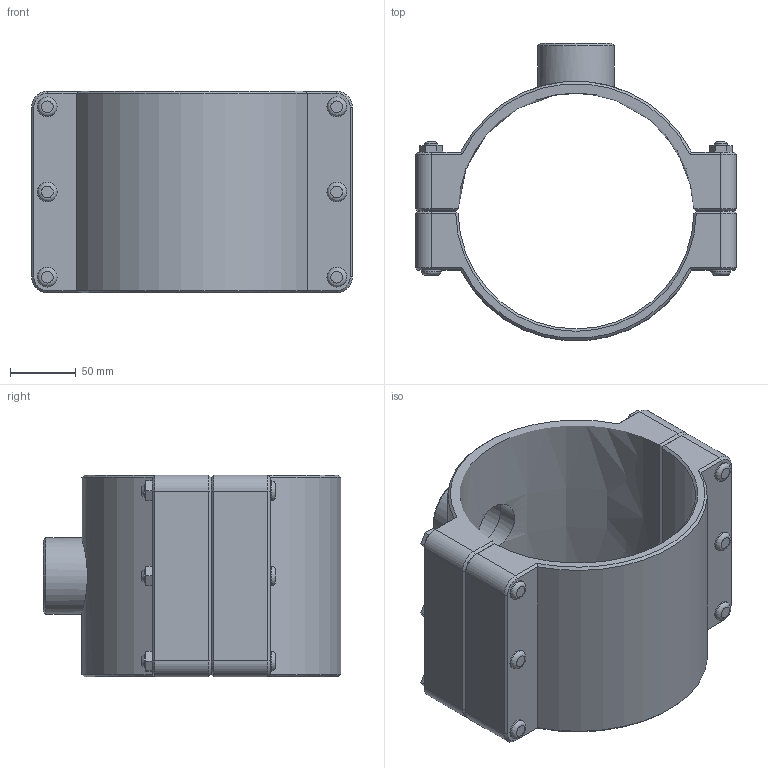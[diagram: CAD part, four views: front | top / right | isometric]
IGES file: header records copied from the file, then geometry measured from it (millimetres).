
Global section: file name: 160760180015_160860180015.ipt; native system: Autodesk Inventor 2015; preprocessor: unknown; author: KIM; date: 20170618.093628; units: millimetre
Bounding box: 245 x 226.65 x 154 mm (x, y, z)
Volume: 1587308 mm3; surface area: 245471.7 mm2
Topology: 1 solids, 1 shells, 169 faces, 394 edges, 249 vertices
Faces by surface type: plane 100, cylinder 29, cone 27, revolution 13
Full cylindrical faces by diameter (mm): 10 x6, 15 x12, 58.298 x1
